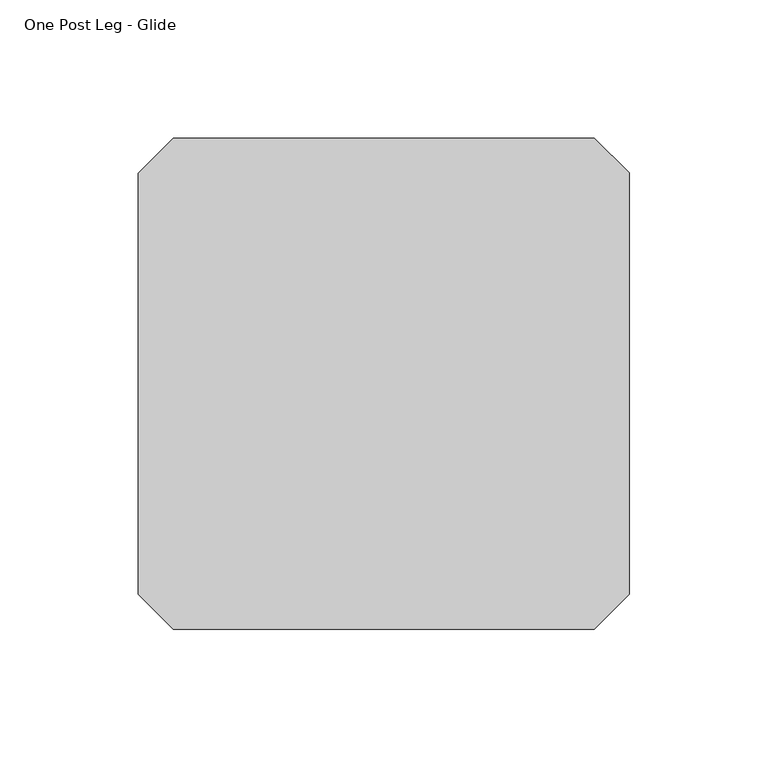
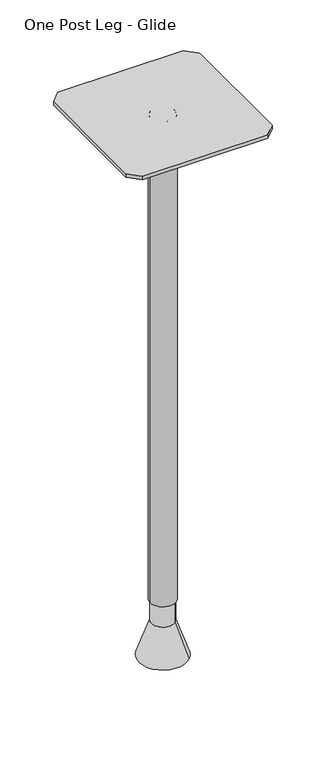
"""IFC4 building model written with IfcOpenShell, lengths in millimetres: furniture geometry, Steelcase - Groupwork - Table Leg - Post - Fixed : One Post Leg - Glide."""

import ifcopenshell
import ifcopenshell.guid

model = None  # the IFC model being written
_history = None  # IfcOwnerHistory: only IFC2X3 demands one
_inside = {}  # id of a spatial element -> (the spatial element, [elements in it])
_under = {}  # id of a project, library or spatial element -> (it, [spatial elements below it])
_declared = {}  # id of a project -> (the project, [libraries it declares])
_typed = {}  # id of a type object -> (the type object, [elements of that type])
_made_of = {}  # id of a material, layer set ... -> (it, [elements and type objects made of it])


def new_model(schema):
    """Start an empty IFC model of exactly this schema.

    Asked for "IFC4X3", IfcOpenShell would pick the latest addendum, in which some entities
    have other attributes; the version numbers below select the first issue.
    IFC2X3 requires an IfcOwnerHistory on every rooted entity: one is made here for all.
    """
    global model, _history
    if schema == "IFC4X3":
        model = ifcopenshell.file(schema_version=(4, 3, 0, 0))
    else:
        model = ifcopenshell.file(schema=schema)
    _inside.clear()
    _under.clear()
    _declared.clear()
    _typed.clear()
    _made_of.clear()
    _history = None
    if model.schema == "IFC2X3":
        org = make("IfcOrganization", Name="unknown")
        user = make(
            "IfcPersonAndOrganization",
            ThePerson=make("IfcPerson", FamilyName="unknown"),
            TheOrganization=org,
        )
        app = make(
            "IfcApplication",
            ApplicationDeveloper=org,
            Version="unknown",
            ApplicationFullName="unknown",
            ApplicationIdentifier="unknown",
        )
        _history = make(
            "IfcOwnerHistory",
            OwningUser=user,
            OwningApplication=app,
            ChangeAction="ADDED",
            CreationDate=0,
        )
    return model


def make(cls, **values):
    """One entity of the class cls with the attributes given. An attribute that is None is left unset."""
    return model.create_entity(
        cls, **{name: value for name, value in values.items() if value is not None}
    )


def rooted(cls, **values):
    """An entity with a GlobalId (a new one), such as an element, a storey or a relation."""
    return make(cls, GlobalId=ifcopenshell.guid.new(), OwnerHistory=_history, **values)


def si_unit(unit_type, name, prefix=None):
    """IfcSIUnit, for example si_unit("LENGTHUNIT", "METRE", prefix="MILLI")."""
    return make("IfcSIUnit", UnitType=unit_type, Prefix=prefix, Name=name)


def assignment(units):
    """IfcUnitAssignment: the units of a project."""
    return None if units is None else make("IfcUnitAssignment", Units=units)


def point(xyz):
    """IfcCartesianPoint."""
    return None if xyz is None else make("IfcCartesianPoint", Coordinates=xyz)


def direction(xyz):
    """IfcDirection."""
    return None if xyz is None else make("IfcDirection", DirectionRatios=xyz)


def frame(location, z_axis=None, x_axis=None):
    """IfcAxis2Placement3D, a coordinate frame: its origin and axes. An axis left out is left unset."""
    return make(
        "IfcAxis2Placement3D",
        Location=point(location),
        Axis=direction(z_axis),
        RefDirection=direction(x_axis),
    )


def frame_2d(location, x_axis=None):
    """IfcAxis2Placement2D, a coordinate frame in the plane: its origin and x axis."""
    return make(
        "IfcAxis2Placement2D", Location=point(location), RefDirection=direction(x_axis)
    )


def origin():
    """The frame at (0, 0, 0) with its axes left unset."""
    return frame((0.0, 0.0, 0.0))


def place(relative_to, where):
    """IfcLocalPlacement: puts the frame where relative to a parent placement (None: the world)."""
    return make(
        "IfcLocalPlacement", PlacementRelTo=relative_to, RelativePlacement=where
    )


def context(
    kind, dimensions, precision=None, world=None, true_north=None, identifier=None
):
    """IfcGeometricRepresentationContext, for example the 3D "Model" context."""
    return make(
        "IfcGeometricRepresentationContext",
        ContextIdentifier=identifier,
        ContextType=kind,
        CoordinateSpaceDimension=dimensions,
        Precision=precision,
        WorldCoordinateSystem=world,
        TrueNorth=true_north,
    )


def project(units=None, contexts=None):
    """IfcProject with its units and contexts."""
    return rooted(
        "IfcProject",
        Name="project",
        RepresentationContexts=contexts,
        UnitsInContext=assignment(units),
    )


def spatial(cls, under=None, at=None, **own):
    """A site, building, storey or space (cls), placed at a placement, below another one or the project."""
    s = rooted(cls, ObjectPlacement=at, **own)
    if under is not None:
        _under.setdefault(under.id(), (under, []))[1].append(s)
    return s


def polyline(points):
    """IfcPolyline through the points."""
    return make("IfcPolyline", Points=[point(p) for p in points])


def circle_curve(where, radius):
    """IfcCircle in the frame where."""
    return make("IfcCircle", Position=where, Radius=radius)


def trimmed(basis, trim1, trim2, sense, master):
    """IfcTrimmedCurve: the piece of a basis curve between two trims."""
    return make(
        "IfcTrimmedCurve",
        BasisCurve=basis,
        Trim1=trim1,
        Trim2=trim2,
        SenseAgreement=sense,
        MasterRepresentation=master,
    )


def segment(curve, same_sense, transition):
    """IfcCompositeCurveSegment."""
    return make(
        "IfcCompositeCurveSegment",
        Transition=transition,
        SameSense=same_sense,
        ParentCurve=curve,
    )


def composite_curve(segments, self_intersect=None):
    """IfcCompositeCurve: segments joined end to end."""
    return make("IfcCompositeCurve", Segments=segments, SelfIntersect=self_intersect)


def outline(outer, holes=None, kind="AREA"):
    """IfcArbitraryClosedProfileDef: a profile drawn as a closed curve; with holes, ...WithVoids."""
    if holes is None:
        return make("IfcArbitraryClosedProfileDef", ProfileType=kind, OuterCurve=outer)
    return make(
        "IfcArbitraryProfileDefWithVoids",
        ProfileType=kind,
        OuterCurve=outer,
        InnerCurves=holes,
    )


def extrude(swept, where, along, depth):
    """IfcExtrudedAreaSolid: the profile swept, set in the frame where, extruded along a direction by depth."""
    return make(
        "IfcExtrudedAreaSolid",
        SweptArea=swept,
        Position=where,
        ExtrudedDirection=direction(along),
        Depth=depth,
    )


def shape(context_of_items, identifier, shape_type, items):
    """IfcShapeRepresentation: the items that make up one representation, for example the "Body"."""
    return make(
        "IfcShapeRepresentation",
        ContextOfItems=context_of_items,
        RepresentationIdentifier=identifier,
        RepresentationType=shape_type,
        Items=items,
    )


def source(mapping_origin, context_of_items, identifier, shape_type, items):
    """IfcRepresentationMap: a shape defined once, which mapped items show again and again."""
    return make(
        "IfcRepresentationMap",
        MappingOrigin=mapping_origin,
        MappedRepresentation=shape(context_of_items, identifier, shape_type, items),
    )


def transform(
    local_origin,
    x_axis=None,
    y_axis=None,
    z_axis=None,
    scale=None,
    scale2=None,
    scale3=None,
    uniform=True,
):
    """IfcCartesianTransformationOperator3D, or its non-uniform kind. x_axis, y_axis, z_axis: its Axis1, 2, 3."""
    if uniform:
        return make(
            "IfcCartesianTransformationOperator3D",
            Axis1=direction(x_axis),
            Axis2=direction(y_axis),
            LocalOrigin=point(local_origin),
            Scale=scale,
            Axis3=direction(z_axis),
        )
    return make(
        "IfcCartesianTransformationOperator3DnonUniform",
        Axis1=direction(x_axis),
        Axis2=direction(y_axis),
        LocalOrigin=point(local_origin),
        Scale=scale,
        Axis3=direction(z_axis),
        Scale2=scale2,
        Scale3=scale3,
    )


def mapped(mapping_source, mapping_target):
    """IfcMappedItem: shows the shape of a source again, moved by a transform."""
    return make(
        "IfcMappedItem", MappingSource=mapping_source, MappingTarget=mapping_target
    )


def made_of(thing, what):
    """Note that an element or type object is made of a material, layer set ...; save() writes the relation."""
    if what is not None:
        _made_of.setdefault(what.id(), (what, []))[1].append(thing)
    return thing


def element(
    cls,
    number,
    at=None,
    inside=None,
    cuts=None,
    type_object=None,
    material=None,
    context=None,
    identifier="Body",
    shape_type=None,
    held_by="IfcProductDefinitionShape",
    body=None,
    shapes=None,
    **own,
):
    """One element of the class cls, such as IfcWall. Its Tag is "e" and its number.

    at: its placement. inside: the storey or other place that contains it. cuts: it is an
    opening in that element (IfcRelVoidsElement). A single representation is given by context,
    identifier, shape_type and body (its items); several are given by shapes. held_by: the class
    of the entity that holds the representations. save() writes the other relations.
    """
    e = rooted(cls, Tag="e%d" % number, ObjectPlacement=at, **own)
    if body is not None:
        shapes = [shape(context, identifier, shape_type, body)]
    if shapes is not None:
        e.Representation = make(held_by, Representations=shapes)
    if inside is not None:
        _inside.setdefault(inside.id(), (inside, []))[1].append(e)
    if cuts is not None:
        rooted(
            "IfcRelVoidsElement", RelatingBuildingElement=cuts, RelatedOpeningElement=e
        )
    if type_object is not None:
        _typed.setdefault(type_object.id(), (type_object, []))[1].append(e)
    return made_of(e, material)


def aggregate(whole, parts):
    """IfcRelAggregates: a whole, such as a stair, and the parts it consists of."""
    return rooted("IfcRelAggregates", RelatingObject=whole, RelatedObjects=parts)


def save(model, path):
    """Write the relations noted so far, then the file.

    IfcRelAggregates (storeys below a building ...), IfcRelContainedInSpatialStructure (elements
    in a storey), IfcRelDefinesByType, IfcRelAssociatesMaterial and IfcRelDeclares: one each for
    every whole, place, type object, material and project.
    """
    for whole, parts in _under.values():
        aggregate(whole, parts)
    for where, things in _inside.values():
        rooted(
            "IfcRelContainedInSpatialStructure",
            RelatedElements=things,
            RelatingStructure=where,
        )
    for kind, things in _typed.values():
        rooted("IfcRelDefinesByType", RelatedObjects=things, RelatingType=kind)
    for what, things in _made_of.values():
        rooted("IfcRelAssociatesMaterial", RelatedObjects=things, RelatingMaterial=what)
    for by, libraries in _declared.values():
        rooted("IfcRelDeclares", RelatingContext=by, RelatedDefinitions=libraries)
    model.write(path)


def plane_surface(at):
    """IfcPlane: the flat surface through the origin of the frame at, square to its z axis."""
    return make("IfcPlane", Position=at)


def cylinder_surface(at, radius):
    """IfcCylindricalSurface: all points at the distance radius from the z axis of the frame at."""
    return make("IfcCylindricalSurface", Position=at, Radius=radius)


def revolved_surface(curve, axis_point, axis_direction):
    """IfcSurfaceOfRevolution: the curve turned about the line through axis_point along axis_direction."""
    return make(
        "IfcSurfaceOfRevolution",
        SweptCurve=make("IfcArbitraryOpenProfileDef", ProfileType="CURVE", Curve=curve),
        AxisPosition=make("IfcAxis1Placement", Location=point(axis_point), Axis=direction(axis_direction)),
    )


def advanced_brep(points, edges, surfaces, faces):
    """IfcAdvancedBrep: a solid bounded by faces that lie on surfaces and meet in shared edges.

    An edge is (start, end): straight between two places in points (the first is 0);
    or (start, end, curve); or (start, end, curve, False) where it runs against its curve.
    A face is (place in surfaces, loops), or (place, loops, False) where it looks against
    its surface's normal. A loop lists edges by number (the first is 1), with a minus sign
    where the edge is run from its end to its start. The first loop is the outer one.
    """
    corners = [point(p) for p in points]
    vertices = [make("IfcVertexPoint", VertexGeometry=c) for c in corners]
    made = []
    for start, end, *more in edges:
        made.append(
            make(
                "IfcEdgeCurve",
                EdgeStart=vertices[start],
                EdgeEnd=vertices[end],
                EdgeGeometry=more[0] if more else make("IfcPolyline", Points=[corners[start], corners[end]]),
                SameSense=more[1] if len(more) > 1 else True,
            )
        )
    hull = []
    for where, loops, *sense in faces:
        bounds = []
        for j, loop in enumerate(loops):
            ring = [make("IfcOrientedEdge", EdgeElement=made[abs(k) - 1], Orientation=k > 0) for k in loop]
            bounds.append(
                make(
                    "IfcFaceOuterBound" if j == 0 else "IfcFaceBound",
                    Bound=make("IfcEdgeLoop", EdgeList=ring),
                    Orientation=True,
                )
            )
        hull.append(make("IfcAdvancedFace", Bounds=bounds, FaceSurface=surfaces[where], SameSense=sense[0] if sense else True))
    return make("IfcAdvancedBrep", Outer=make("IfcClosedShell", CfsFaces=hull))


def one_post_leg_glide_736f2f15(model_context):
    return source(origin(), model_context, "Body", "SolidModel", [
        extrude(outline(polyline([(88.8999907, -92.0423469), (76.2000028, -104.7423348), (-76.2000028, -104.7423348), (-88.9000032, -92.0423469), (-88.9000032, 60.3576588), (-76.2000028, 73.0576592), (76.2000028, 73.0576592), (88.8999907, 60.4556951), (88.8999907, -92.0423469)])), frame((0.0, 0.0, 690.4379814), z_axis=(0.0, 0.0, 1.0), x_axis=(1.0, 0.0, 0.0)), (0.0, 0.0, 1.0), 4.5060186),
        advanced_brep(
        [(9.6968599, -25.4901858, 71.9077843), (-9.6968599, -6.096466, 71.9077843), (0.0, -15.7933259, 71.9077843), (9.6968599, -25.4901858, 44.5081099), (-9.6968599, -6.096466, 44.5081099), (20.454658, -36.2479839, 0.0), (-20.454658, 4.6613321, 0.0), (0.0, -15.7933259, 0.0)],
        [
            (0, 1, circle_curve(frame((0.0, -15.7933259, 71.9077843), z_axis=(0.0, 0.0, 1.0), x_axis=(-0.7071067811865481, 0.707106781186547, 0.0)), 13.7134307)),
            (1, 2),
            (2, 0),
            (1, 0, circle_curve(frame((0.0, -15.7933259, 71.9077843), z_axis=(0.0, 0.0, 1.0), x_axis=(-0.7071067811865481, 0.707106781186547, 0.0)), 13.7134307)),
            (3, 4, circle_curve(frame((0.0, -15.7933259, 44.5081099), z_axis=(0.0, 0.0, 1.0), x_axis=(-0.7071067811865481, 0.707106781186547, 0.0)), 13.7134307)),
            (4, 1),
            (0, 3),
            (4, 3, circle_curve(frame((0.0, -15.7933259, 44.5081099), z_axis=(0.0, 0.0, 1.0), x_axis=(-0.7071067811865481, 0.707106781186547, 0.0)), 13.7134307)),
            (5, 6, circle_curve(frame((0.0, -15.7933259, 0.0), z_axis=(0.0, 0.0, 1.0), x_axis=(-0.7071067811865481, 0.707106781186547, 0.0)), 28.9272548)),
            (6, 4),
            (3, 5),
            (6, 5, circle_curve(frame((0.0, -15.7933259, 0.0), z_axis=(0.0, 0.0, 1.0), x_axis=(-0.7071067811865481, 0.707106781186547, 0.0)), 28.9272548)),
            (7, 6),
            (5, 7),
        ],
        [
            plane_surface(frame((0.0, -15.7933259, 71.9077843), z_axis=(0.0, 0.0, 1.0000000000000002), x_axis=(-0.7071067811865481, 0.707106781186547, 0.0))),
            cylinder_surface(frame((0.0, -15.7933259, 71.9077843), z_axis=(0.0, 0.0, -1.0), x_axis=(-0.7071067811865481, 0.707106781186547, 0.0)), 13.7134307),
            revolved_surface(polyline([(-9.6968599, -6.096466, 44.5081099), (-20.454658, 4.6613321, 0.0)]), (0.0, -15.7933259, 71.9077843), (0.0, 0.0, -1.0)),
            plane_surface(frame((0.0, -15.7933259, 0.0), z_axis=(0.0, 0.0, -1.0000000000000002), x_axis=(-0.7071067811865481, 0.707106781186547, 0.0))),
        ],
        [
            (0, [[1, 2, 3]]),
            (0, [[4, -3, -2]]),
            (1, [[5, 6, -1, 7]]),
            (1, [[8, -7, -4, -6]]),
            (2, [[9, 10, -5, 11]]),
            (2, [[12, -11, -8, -10]]),
            (3, [[13, -9, 14]]),
            (3, [[-14, -12, -13]]),
        ],
    ),
        extrude(outline(composite_curve([segment(trimmed(circle_curve(frame_2d((0.0, -15.7933259)), 15.24), [point((-15.24, -15.7933259))], [point((15.24, -15.7933259))], False, "CARTESIAN"), True, "CONTINUOUS"), segment(trimmed(circle_curve(frame_2d((0.0, -15.7933259)), 15.24), [point((15.24, -15.7933259))], [point((-15.24, -15.7933259))], False, "CARTESIAN"), True, "CONTINUOUS")], self_intersect=False), holes=[composite_curve([segment(trimmed(circle_curve(frame_2d((0.0, -15.7933259)), 13.7134307), [point((-13.7134307, -15.7933259))], [point((13.7134307, -15.7933259))], True, "CARTESIAN"), True, "CONTINUOUS"), segment(trimmed(circle_curve(frame_2d((0.0, -15.7933259)), 13.7134307), [point((13.7134307, -15.7933259))], [point((-13.7134307, -15.7933259))], True, "CARTESIAN"), True, "CONTINUOUS")], self_intersect=False)]), frame((0.0, 0.0, 71.6852125), z_axis=(0.0, 0.0, 1.0), x_axis=(1.0, 0.0, 0.0)), (0.0, 0.0, 1.0), 623.2587875),
    ])


if __name__ == "__main__":
    model = new_model("IFC4")
    model_context = context("Model", 3, world=origin())
    ifc_project = project(units=[si_unit("LENGTHUNIT", "METRE", prefix="MILLI")], contexts=[model_context])
    site = spatial("IfcSite", under=ifc_project)
    building = spatial("IfcBuilding", under=site)
    placement = place(None, origin())
    one_post_leg_glide_shape = one_post_leg_glide_736f2f15(model_context)
    element("IfcFurniture", 1, ObjectType="Steelcase - Groupwork - Table Leg - Post - Fixed : One Post Leg - Glide", at=placement, inside=building, context=model_context, shape_type="MappedRepresentation", body=[
        mapped(one_post_leg_glide_shape, transform((0.0, 0.0, 0.0), x_axis=(1.0, 0.0, 0.0), y_axis=(0.0, 1.0, 0.0), z_axis=(0.0, 0.0, 1.0))),
    ])
    save(model, "model.ifc")
